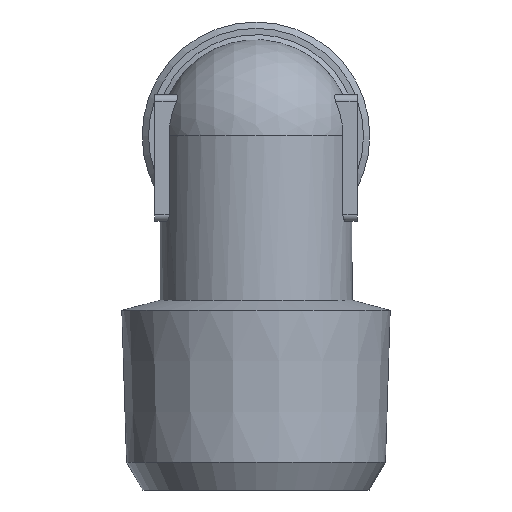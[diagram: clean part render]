
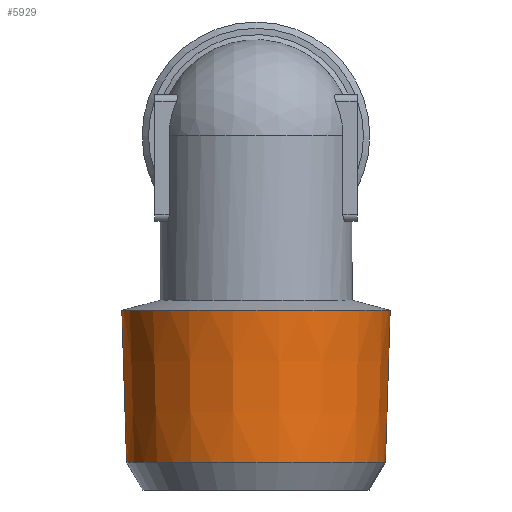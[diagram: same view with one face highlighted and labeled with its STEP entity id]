
A CAD part, left-side view. The second image highlights one B-rep face of the part: STEP entity #5929.
In plain terms, the highlighted conical face has half-angle 1.79 degrees and reference radius 10.634 mm.
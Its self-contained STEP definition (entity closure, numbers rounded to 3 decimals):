
#1663=CONICAL_SURFACE('',#5773,10.634,1.79);
#1875=ORIENTED_EDGE('',*,*,#2341,.F.);
#1876=ORIENTED_EDGE('',*,*,#2340,.F.);
#2153=CIRCLE('',#5772,10.234);
#2154=CIRCLE('',#5774,10.609);
#2226=VERTEX_POINT('',#4588);
#2227=VERTEX_POINT('',#4591);
#2340=EDGE_CURVE('',#2226,#2226,#2153,.T.);
#2341=EDGE_CURVE('',#2227,#2227,#2154,.T.);
#2494=EDGE_LOOP('',(#1875));
#2495=EDGE_LOOP('',(#1876));
#2599=FACE_BOUND('',#2494,.T.);
#2600=FACE_BOUND('',#2495,.T.);
#2750=DIRECTION('',(0.,-1.,0.));
#2751=DIRECTION('',(0.,0.,10.234));
#2752=DIRECTION('',(0.,1.,0.));
#2753=DIRECTION('',(0.,0.,1.));
#2754=DIRECTION('',(0.,1.,0.));
#2755=DIRECTION('',(0.,0.,10.609));
#4588=CARTESIAN_POINT('',(28.235,19.29,10.234));
#4589=CARTESIAN_POINT('',(28.235,19.29,0.));
#4590=CARTESIAN_POINT('',(28.235,32.09,0.));
#4591=CARTESIAN_POINT('',(28.235,31.284,10.609));
#4592=CARTESIAN_POINT('',(28.235,31.284,0.));
#5772=AXIS2_PLACEMENT_3D('',#4589,#2750,#2751);
#5773=AXIS2_PLACEMENT_3D('',#4590,#2752,#2753);
#5774=AXIS2_PLACEMENT_3D('',#4592,#2754,#2755);
#5929=ADVANCED_FACE('',(#2599,#2600),#1663,.T.);
